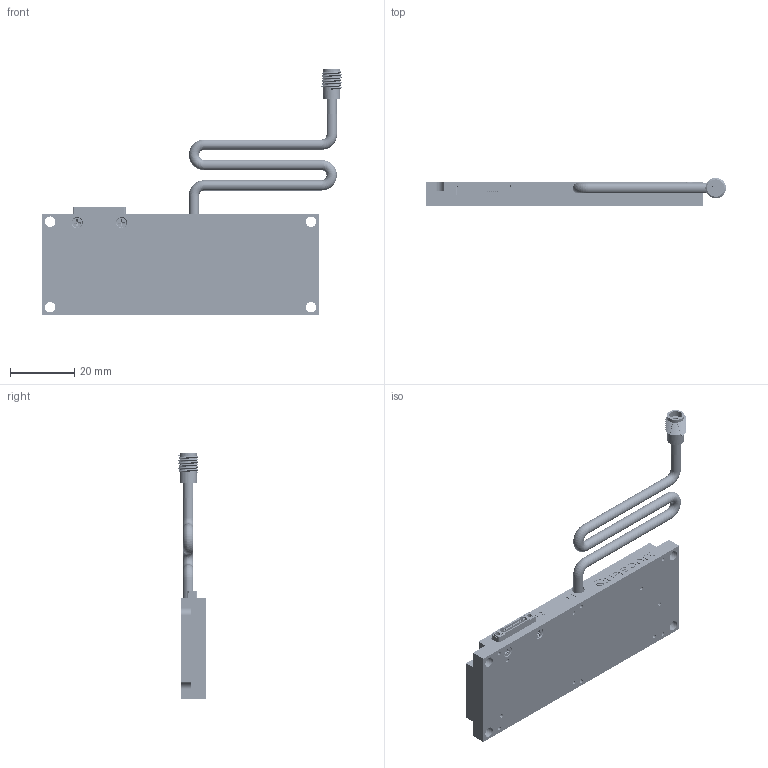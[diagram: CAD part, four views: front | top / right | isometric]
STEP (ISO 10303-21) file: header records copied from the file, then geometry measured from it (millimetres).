
FILE_DESCRIPTION (( 'STEP AP203' ), '1' );
FILE_NAME ('01AC_10-29-13.STEP', '2013-10-29T18:50:56', ( 'Quasonix' ), ( '' ), 'SwSTEP 2.0', 'SolidWorks 2012', '' );
FILE_SCHEMA (( 'CONFIG_CONTROL_DESIGN' ));
Length unit declared in the file: inch
Products named in the file (1): 01AC_10-29-13
Bounding box: 93.47 x 8.68 x 76.94 mm (x, y, z)
Volume: 11700.4 mm3; surface area: 25889.5 mm2
Topology: 18 solids, 18 shells, 4893 faces, 14115 edges, 9340 vertices
Faces by surface type: cylinder 3839, plane 815, torus 108, bspline 99, cone 32
Entity records: 174011 total; most frequent: CARTESIAN_POINT 32075, DIRECTION 31348, ORIENTED_EDGE 28230, EDGE_CURVE 14115, AXIS2_PLACEMENT_3D 12690, VERTEX_POINT 9340, EDGE_LOOP 8139, CIRCLE 7895
